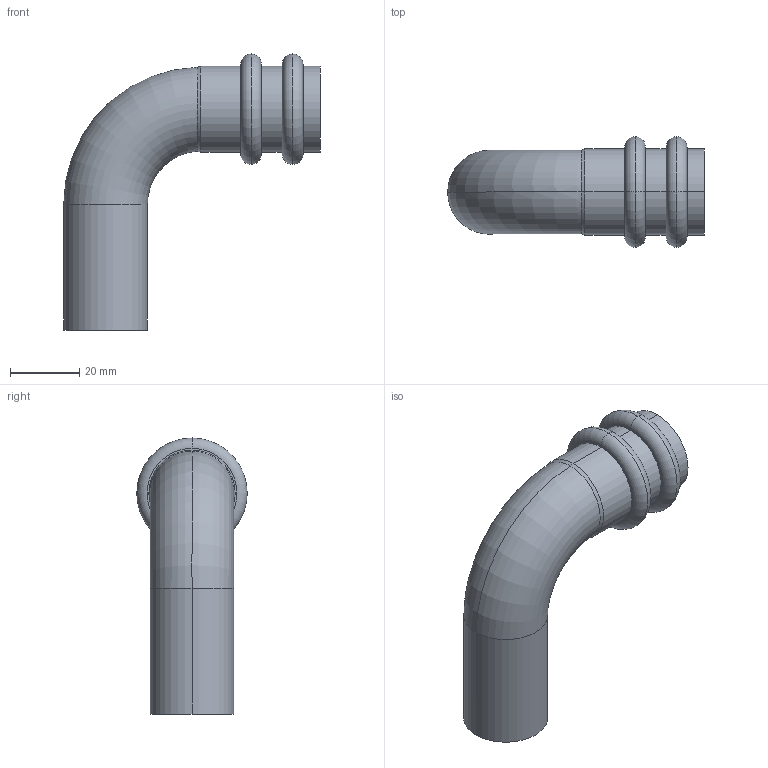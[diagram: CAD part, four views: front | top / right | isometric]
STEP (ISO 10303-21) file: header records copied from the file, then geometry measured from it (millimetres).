
FILE_DESCRIPTION(('starvars output'),'1');
FILE_NAME('cv20240422105026000011474.stp','10:50:26 2024/04/22',('Thomas Industrial Network Germany GmbH'),(' '),'Spatial InterOp 3D',' ',' ');
FILE_SCHEMA(('AUTOMOTIVE_DESIGN { 1 0 10303 214 3 1 1 }'));
Length unit declared in the file: millimetre
Products named in the file (1): 1
Bounding box: 74.09 x 31.9 x 79.7 mm (x, y, z)
Volume: 9399.7 mm3; surface area: 18963.4 mm2
Topology: 1 solids, 1 shells, 52 faces, 109 edges, 68 vertices
Faces by surface type: torus 20, cylinder 16, plane 12, cone 4
Entity records: 2129 total; most frequent: CARTESIAN_POINT 509, DIRECTION 288, ORIENTED_EDGE 218, AXIS2_PLACEMENT_3D 134, EDGE_CURVE 109, CIRCLE 81, VERTEX_POINT 68, EDGE_LOOP 63
